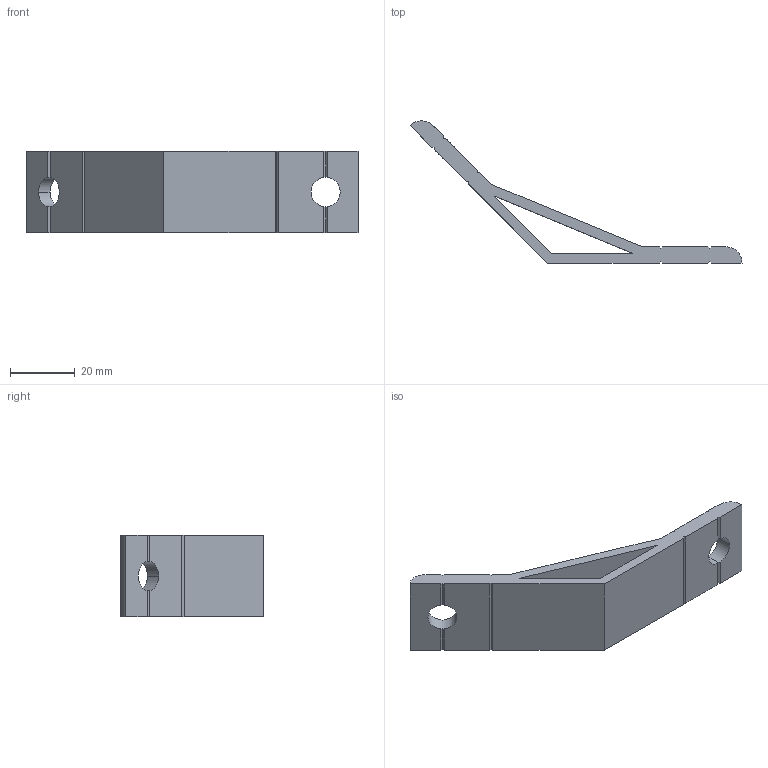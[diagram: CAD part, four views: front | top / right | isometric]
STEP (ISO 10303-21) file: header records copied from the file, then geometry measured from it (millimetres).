
FILE_DESCRIPTION (( 'STEP AP203' ), '1' );
FILE_NAME ('WA25135-6.STEP', '2024-02-17T07:45:25', ( '' ), ( '' ), 'SwSTEP 2.0', 'SolidWorks 2022', '' );
FILE_SCHEMA (( 'CONFIG_CONTROL_DESIGN' ));
Length unit declared in the file: millimetre
Products named in the file (1): WA25135-6
Bounding box: 102.43 x 43.87 x 25 mm (x, y, z)
Volume: 14802.3 mm3; surface area: 9669.1 mm2
Topology: 1 solids, 1 shells, 48 faces, 146 edges, 96 vertices
Faces by surface type: plane 42, cylinder 6
Entity records: 1703 total; most frequent: CARTESIAN_POINT 339, ORIENTED_EDGE 292, DIRECTION 244, EDGE_CURVE 146, LINE 114, VECTOR 114, VERTEX_POINT 96, AXIS2_PLACEMENT_3D 65
